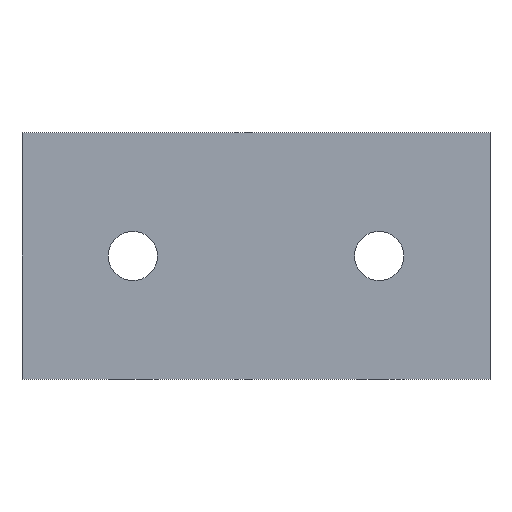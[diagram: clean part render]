
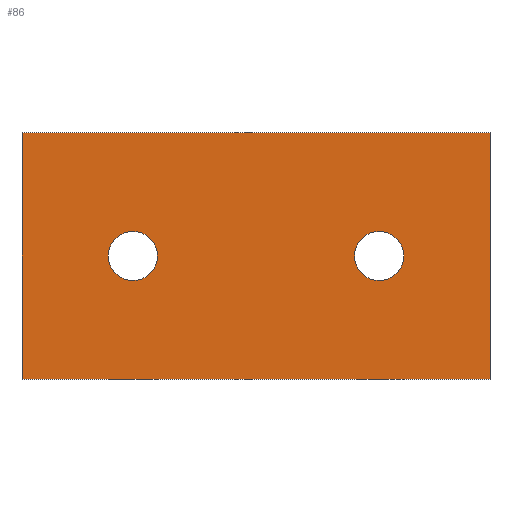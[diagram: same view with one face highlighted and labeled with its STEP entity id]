
A CAD part, left-side view. The second image highlights one B-rep face of the part: STEP entity #86.
In plain terms, the highlighted planar face has unit normal (-1, 0, 0).
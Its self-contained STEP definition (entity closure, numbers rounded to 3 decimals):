
#2 = LINE ( 'NONE', #93, #478 ) ;
#10 = CARTESIAN_POINT ( 'NONE',  ( -20.39, 13.857, 20. ) ) ;
#14 = CARTESIAN_POINT ( 'NONE',  ( -20.39, -8.143, 6. ) ) ;
#28 = DIRECTION ( 'NONE',  ( 0., 0., -1. ) ) ;
#33 = AXIS2_PLACEMENT_3D ( 'NONE', #408, #406, #403 ) ;
#38 = DIRECTION ( 'NONE',  ( 0., -1., 0. ) ) ;
#39 = DIRECTION ( 'NONE',  ( -1., 0., 0. ) ) ;
#43 = CARTESIAN_POINT ( 'NONE',  ( -20.39, 49.857, 20. ) ) ;
#45 = CARTESIAN_POINT ( 'NONE',  ( -20.39, 67.857, 0. ) ) ;
#71 = AXIS2_PLACEMENT_3D ( 'NONE', #463, #460, #458 ) ;
#72 = ORIENTED_EDGE ( 'NONE', *, *, #227, .F. ) ;
#73 = AXIS2_PLACEMENT_3D ( 'NONE', #558, #553, #533 ) ;
#86 = ADVANCED_FACE ( 'NONE', ( #532, #270, #659 ), #355, .F. ) ;
#88 = DIRECTION ( 'NONE',  ( 0., -1., 0. ) ) ;
#89 = EDGE_LOOP ( 'NONE', ( #320, #72 ) ) ;
#91 = DIRECTION ( 'NONE',  ( 0., 0., -1. ) ) ;
#93 = CARTESIAN_POINT ( 'NONE',  ( -20.39, 67.857, 6. ) ) ;
#120 = CARTESIAN_POINT ( 'NONE',  ( -20.39, -8.143, 40. ) ) ;
#132 = AXIS2_PLACEMENT_3D ( 'NONE', #486, #278, #283 ) ;
#136 = LINE ( 'NONE', #120, #561 ) ;
#143 = CIRCLE ( 'NONE', #73, 4. ) ;
#152 = CIRCLE ( 'NONE', #266, 4. ) ;
#182 = VERTEX_POINT ( 'NONE', #10 ) ;
#194 = LINE ( 'NONE', #45, #694 ) ;
#195 = EDGE_CURVE ( 'NONE', #242, #182, #143, .T. ) ;
#209 = EDGE_CURVE ( 'NONE', #182, #242, #597, .T. ) ;
#218 = CARTESIAN_POINT ( 'NONE',  ( -20.39, 53.857, 20. ) ) ;
#227 = EDGE_CURVE ( 'NONE', #376, #638, #449, .T. ) ;
#242 = VERTEX_POINT ( 'NONE', #418 ) ;
#266 = AXIS2_PLACEMENT_3D ( 'NONE', #43, #39, #38 ) ;
#270 = FACE_BOUND ( 'NONE', #89, .T. ) ;
#278 = DIRECTION ( 'NONE',  ( 1., 0., 0. ) ) ;
#283 = DIRECTION ( 'NONE',  ( 0., 1., 0. ) ) ;
#285 = LINE ( 'NONE', #14, #443 ) ;
#304 = VERTEX_POINT ( 'NONE', #333 ) ;
#306 = CARTESIAN_POINT ( 'NONE',  ( -20.39, -8.143, 0. ) ) ;
#311 = CARTESIAN_POINT ( 'NONE',  ( -20.39, 45.857, 20. ) ) ;
#320 = ORIENTED_EDGE ( 'NONE', *, *, #495, .F. ) ;
#324 = ORIENTED_EDGE ( 'NONE', *, *, #498, .T. ) ;
#333 = CARTESIAN_POINT ( 'NONE',  ( -20.39, -8.143, 40. ) ) ;
#355 = PLANE ( 'NONE',  #132 ) ;
#376 = VERTEX_POINT ( 'NONE', #218 ) ;
#380 = ORIENTED_EDGE ( 'NONE', *, *, #209, .F. ) ;
#389 = EDGE_LOOP ( 'NONE', ( #686, #380 ) ) ;
#403 = DIRECTION ( 'NONE',  ( 0., -1., 0. ) ) ;
#406 = DIRECTION ( 'NONE',  ( -1., 0., 0. ) ) ;
#408 = CARTESIAN_POINT ( 'NONE',  ( -20.39, 49.857, 20. ) ) ;
#418 = CARTESIAN_POINT ( 'NONE',  ( -20.39, 5.857, 20. ) ) ;
#427 = DIRECTION ( 'NONE',  ( 0., 1., 0. ) ) ;
#441 = ORIENTED_EDGE ( 'NONE', *, *, #524, .T. ) ;
#443 = VECTOR ( 'NONE', #28, 1000. ) ;
#449 = CIRCLE ( 'NONE', #33, 4. ) ;
#451 = ORIENTED_EDGE ( 'NONE', *, *, #466, .T. ) ;
#458 = DIRECTION ( 'NONE',  ( 0., -1., 0. ) ) ;
#460 = DIRECTION ( 'NONE',  ( -1., 0., 0. ) ) ;
#463 = CARTESIAN_POINT ( 'NONE',  ( -20.39, 9.857, 20. ) ) ;
#466 = EDGE_CURVE ( 'NONE', #668, #527, #2, .T. ) ;
#478 = VECTOR ( 'NONE', #91, 1000. ) ;
#486 = CARTESIAN_POINT ( 'NONE',  ( -20.39, 67.857, 6. ) ) ;
#491 = ORIENTED_EDGE ( 'NONE', *, *, #512, .F. ) ;
#495 = EDGE_CURVE ( 'NONE', #638, #376, #152, .T. ) ;
#498 = EDGE_CURVE ( 'NONE', #527, #586, #194, .T. ) ;
#512 = EDGE_CURVE ( 'NONE', #304, #586, #285, .T. ) ;
#524 = EDGE_CURVE ( 'NONE', #304, #668, #136, .T. ) ;
#527 = VERTEX_POINT ( 'NONE', #530 ) ;
#530 = CARTESIAN_POINT ( 'NONE',  ( -20.39, 67.857, 0. ) ) ;
#532 = FACE_BOUND ( 'NONE', #389, .T. ) ;
#533 = DIRECTION ( 'NONE',  ( 0., -1., 0. ) ) ;
#536 = CARTESIAN_POINT ( 'NONE',  ( -20.39, 67.857, 40. ) ) ;
#553 = DIRECTION ( 'NONE',  ( -1., 0., 0. ) ) ;
#558 = CARTESIAN_POINT ( 'NONE',  ( -20.39, 9.857, 20. ) ) ;
#561 = VECTOR ( 'NONE', #427, 1000. ) ;
#586 = VERTEX_POINT ( 'NONE', #306 ) ;
#591 = EDGE_LOOP ( 'NONE', ( #324, #491, #441, #451 ) ) ;
#597 = CIRCLE ( 'NONE', #71, 4. ) ;
#638 = VERTEX_POINT ( 'NONE', #311 ) ;
#659 = FACE_OUTER_BOUND ( 'NONE', #591, .T. ) ;
#668 = VERTEX_POINT ( 'NONE', #536 ) ;
#686 = ORIENTED_EDGE ( 'NONE', *, *, #195, .F. ) ;
#694 = VECTOR ( 'NONE', #88, 1000. ) ;
